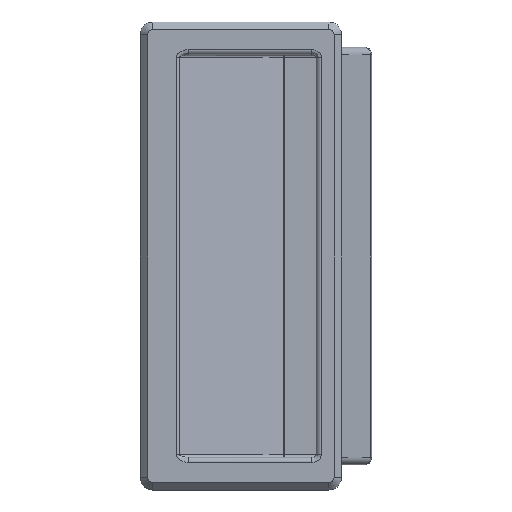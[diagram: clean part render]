
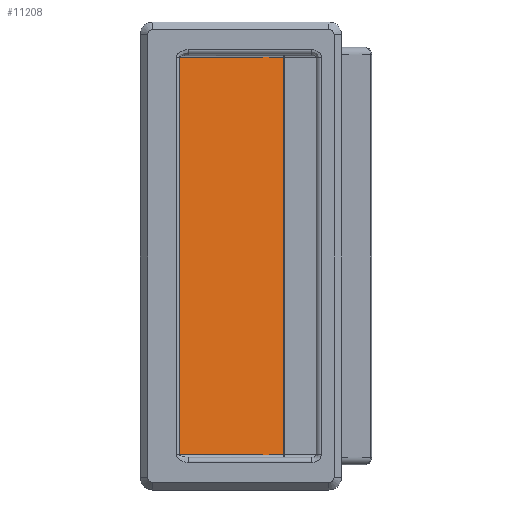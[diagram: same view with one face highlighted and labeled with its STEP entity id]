
A CAD part, front view. The second image highlights one B-rep face of the part: STEP entity #11208.
In plain terms, the highlighted planar face has unit normal (0.618, -0.786, 0).
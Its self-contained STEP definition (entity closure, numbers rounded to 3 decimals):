
#21 = LINE ( 'NONE', #7841, #2579 ) ;
#393 = CARTESIAN_POINT ( 'NONE',  ( 7.791, -1.286, 7. ) ) ;
#1451 = LINE ( 'NONE', #5206, #2961 ) ;
#1645 = EDGE_CURVE ( 'NONE', #11826, #5416, #21, .T. ) ;
#2342 = ORIENTED_EDGE ( 'NONE', *, *, #6171, .T. ) ;
#2579 = VECTOR ( 'NONE', #7889, 1000. ) ;
#2961 = VECTOR ( 'NONE', #11723, 1000. ) ;
#2976 = DIRECTION ( 'NONE',  ( -0.786, -0.618, 0. ) ) ;
#3689 = DIRECTION ( 'NONE',  ( 0., 0., -1. ) ) ;
#3697 = ORIENTED_EDGE ( 'NONE', *, *, #12217, .T. ) ;
#4876 = DIRECTION ( 'NONE',  ( -0.618, 0.786, 0. ) ) ;
#5206 = CARTESIAN_POINT ( 'NONE',  ( 28.383, 14.893, 86.5 ) ) ;
#5266 = EDGE_LOOP ( 'NONE', ( #11795, #3697, #11844, #2342 ) ) ;
#5282 = CARTESIAN_POINT ( 'NONE',  ( 28.383, 14.893, 86. ) ) ;
#5416 = VERTEX_POINT ( 'NONE', #12360 ) ;
#5577 = FACE_OUTER_BOUND ( 'NONE', #5266, .T. ) ;
#6171 = EDGE_CURVE ( 'NONE', #5416, #10985, #1451, .T. ) ;
#7023 = CARTESIAN_POINT ( 'NONE',  ( 7.791, -1.286, 86. ) ) ;
#7683 = EDGE_CURVE ( 'NONE', #10985, #13398, #11951, .T. ) ;
#7841 = CARTESIAN_POINT ( 'NONE',  ( 28.519, 15., 7. ) ) ;
#7889 = DIRECTION ( 'NONE',  ( 0.786, 0.618, 0. ) ) ;
#8081 = VECTOR ( 'NONE', #3689, 1000. ) ;
#8419 = LINE ( 'NONE', #12369, #8081 ) ;
#9188 = CARTESIAN_POINT ( 'NONE',  ( 28.519, 15., 138.644 ) ) ;
#9356 = VECTOR ( 'NONE', #2976, 1000. ) ;
#10985 = VERTEX_POINT ( 'NONE', #5282 ) ;
#11208 = ADVANCED_FACE ( 'NONE', ( #5577 ), #11397, .F. ) ;
#11275 = AXIS2_PLACEMENT_3D ( 'NONE', #9188, #4876, #12484 ) ;
#11397 = PLANE ( 'NONE',  #11275 ) ;
#11723 = DIRECTION ( 'NONE',  ( 0., 0., 1. ) ) ;
#11795 = ORIENTED_EDGE ( 'NONE', *, *, #7683, .T. ) ;
#11826 = VERTEX_POINT ( 'NONE', #393 ) ;
#11844 = ORIENTED_EDGE ( 'NONE', *, *, #1645, .T. ) ;
#11951 = LINE ( 'NONE', #13501, #9356 ) ;
#12217 = EDGE_CURVE ( 'NONE', #13398, #11826, #8419, .T. ) ;
#12360 = CARTESIAN_POINT ( 'NONE',  ( 28.383, 14.893, 7. ) ) ;
#12369 = CARTESIAN_POINT ( 'NONE',  ( 7.791, -1.286, 7. ) ) ;
#12484 = DIRECTION ( 'NONE',  ( -0.786, -0.618, 0. ) ) ;
#13398 = VERTEX_POINT ( 'NONE', #7023 ) ;
#13501 = CARTESIAN_POINT ( 'NONE',  ( 7.519, -1.5, 86. ) ) ;
